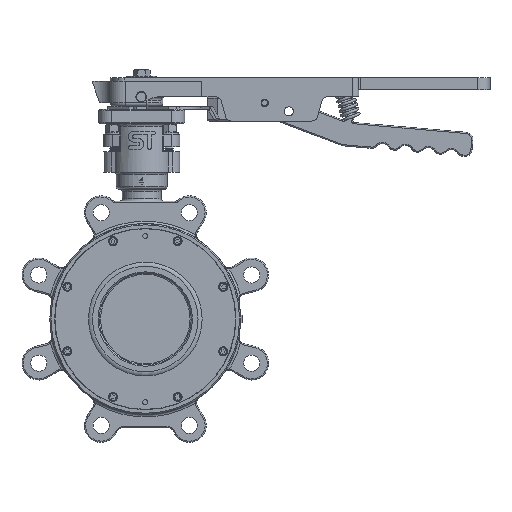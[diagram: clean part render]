
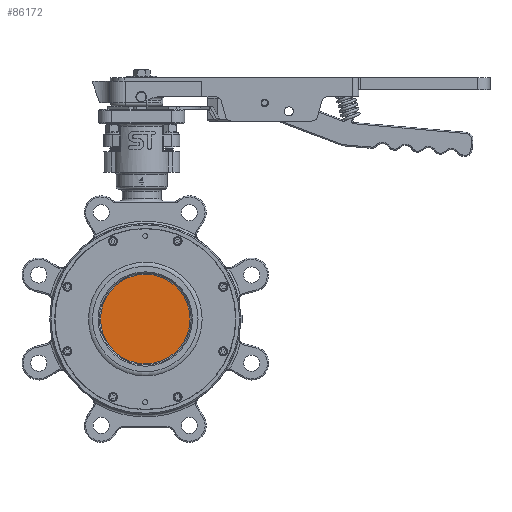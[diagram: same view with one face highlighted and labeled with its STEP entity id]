
A CAD part, front view. The second image highlights one B-rep face of the part: STEP entity #86172.
In plain terms, the highlighted planar face has unit normal (0, -1, 0).
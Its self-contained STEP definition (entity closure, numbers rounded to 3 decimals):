
#86172 = ADVANCED_FACE('',(#86173),#86186,.F.);
#86173 = FACE_BOUND('',#86174,.T.);
#86174 = EDGE_LOOP('',(#86175));
#86175 = ORIENTED_EDGE('',*,*,#86176,.F.);
#86176 = EDGE_CURVE('',#86177,#86177,#86179,.T.);
#86177 = VERTEX_POINT('',#86178);
#86178 = CARTESIAN_POINT('',(275.364,-1.133,191.928)
  );
#86179 = SURFACE_CURVE('',#86180,(#86185,#86197),.PCURVE_S1.);
#86180 = CIRCLE('',#86181,1.458);
#86181 = AXIS2_PLACEMENT_3D('',#86182,#86183,#86184);
#86182 = CARTESIAN_POINT('',(273.907,-1.133,191.928)
  );
#86183 = DIRECTION('',(0.,1.,0.));
#86184 = DIRECTION('',(1.,0.,0.));
#86185 = PCURVE('',#86186,#86191);
#86186 = PLANE('',#86187);
#86187 = AXIS2_PLACEMENT_3D('',#86188,#86189,#86190);
#86188 = CARTESIAN_POINT('',(273.907,-1.133,191.928)
  );
#86189 = DIRECTION('',(0.,1.,0.));
#86190 = DIRECTION('',(1.,0.,0.));
#86191 = DEFINITIONAL_REPRESENTATION('',(#86192),#86196);
#86192 = CIRCLE('',#86193,1.458);
#86193 = AXIS2_PLACEMENT_2D('',#86194,#86195);
#86194 = CARTESIAN_POINT('',(0.,0.));
#86195 = DIRECTION('',(1.,0.));
#86196 = ( GEOMETRIC_REPRESENTATION_CONTEXT(2) 
PARAMETRIC_REPRESENTATION_CONTEXT() REPRESENTATION_CONTEXT('2D SPACE',''
  ) );
#86197 = PCURVE('',#86198,#86203);
#86198 = TOROIDAL_SURFACE('',#86199,1.458,0.039);
#86199 = AXIS2_PLACEMENT_3D('',#86200,#86201,#86202);
#86200 = CARTESIAN_POINT('',(273.907,-1.172,191.928)
  );
#86201 = DIRECTION('',(0.,1.,0.));
#86202 = DIRECTION('',(1.,0.,0.));
#86203 = DEFINITIONAL_REPRESENTATION('',(#86204),#86208);
#86204 = LINE('',#86205,#86206);
#86205 = CARTESIAN_POINT('',(0.,7.854));
#86206 = VECTOR('',#86207,1.);
#86207 = DIRECTION('',(1.,0.));
#86208 = ( GEOMETRIC_REPRESENTATION_CONTEXT(2) 
PARAMETRIC_REPRESENTATION_CONTEXT() REPRESENTATION_CONTEXT('2D SPACE',''
  ) );
